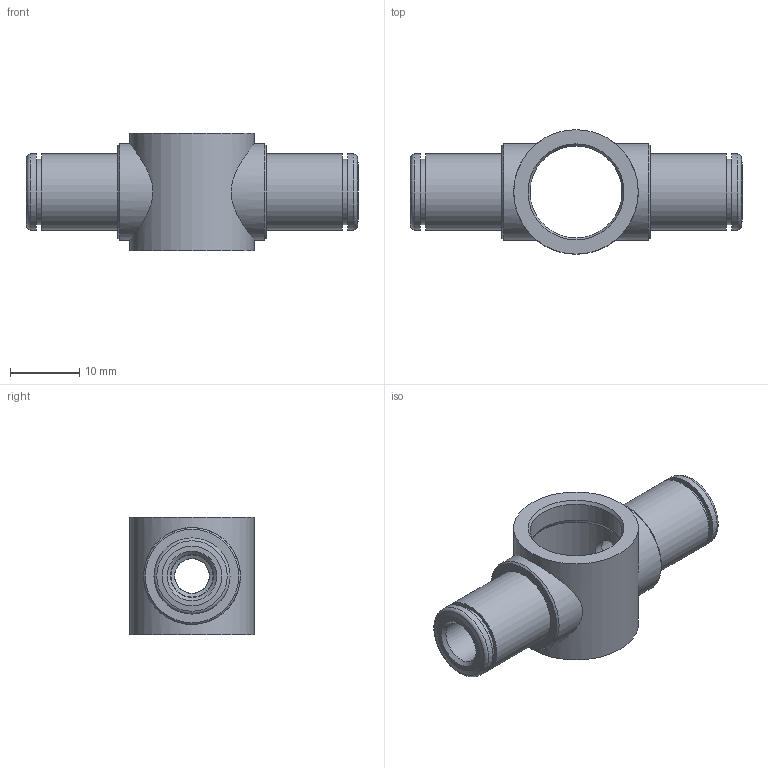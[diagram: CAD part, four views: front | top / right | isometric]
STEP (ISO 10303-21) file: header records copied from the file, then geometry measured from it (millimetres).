
FILE_DESCRIPTION(('Bauteilbeschreibung','HiCAD-Model','HiCAD-STEP-TRANSLATION','Bauteilbeschreibung'),'2;1');
FILE_NAME('B:/ABGLEICH/ZEICHNUNGEN/STEP FÜR INTERNET/STEP/201306_IPSO_014_6_1-4.STP','2011-08-04T13:57:34+00:00',('Konstrukteur'),('Konstrukteur Firma GmbH'),' HiCAD neXt 2008, Step 3.1.1401.2J ','HiCAD neXt 2008','confidential');
FILE_SCHEMA(('AUTOMOTIVE_DESIGN { 1 2 10303 214 0 1 1 1 }'));
Length unit declared in the file: millimetre
Products named in the file (4): A01306_IPSO_014_6_1_4; DR6_1_NEU; DR6010NEU; R201306_N
Assembly tree (3 placements, depth 2):
  A01306_IPSO_014_6_1_4
    DR6_1_NEU
    DR6010NEU
    R201306_N
Bounding box: 48 x 18 x 17 mm (x, y, z)
Volume: 3699.2 mm3; surface area: 4657.1 mm2
Topology: 3 solids, 3 shells, 62 faces, 123 edges, 74 vertices
Faces by surface type: cylinder 24, cone 22, plane 14, torus 2
Full cylindrical faces by diameter (mm): 5 x2, 6.1 x2, 6.2 x2, 8.3 x2, 9 x2, 9.5 x2, 9.6 x2, 11 x4, 13.3 x2, 14 x3, 18 x1
Entity records: 4345 total; most frequent: CARTESIAN_POINT 2860, DIRECTION 256, AXIS2_PLACEMENT_3D 128, EDGE_LOOP 128, ORIENTED_EDGE 128, FACE_BOUND 66, EDGE_CURVE 64, VERTEX_POINT 64
